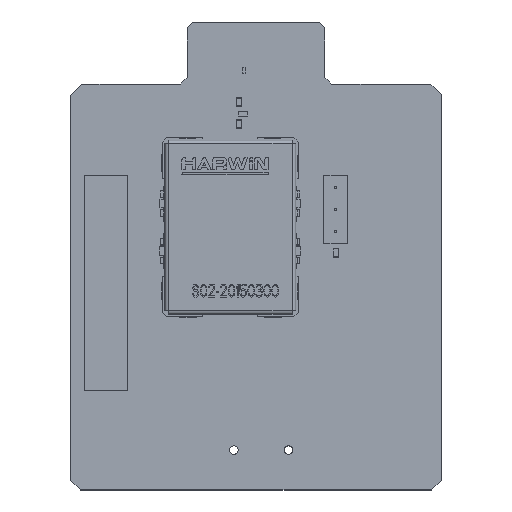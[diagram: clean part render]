
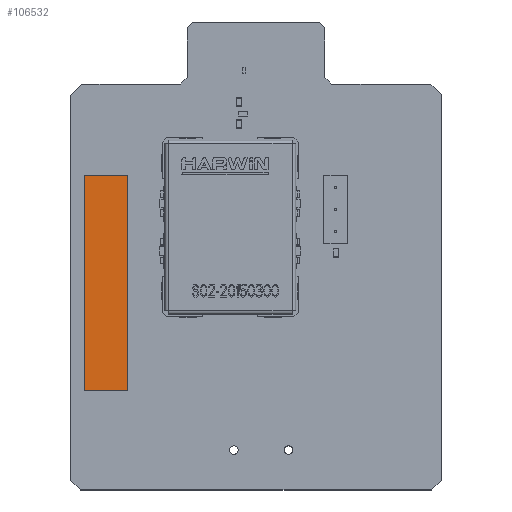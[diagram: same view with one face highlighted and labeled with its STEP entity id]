
A CAD part, top view. The second image highlights one B-rep face of the part: STEP entity #106532.
In plain terms, the highlighted planar face has unit normal (0, 0, 1).
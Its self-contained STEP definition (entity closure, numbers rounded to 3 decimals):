
#106403 = VERTEX_POINT('',#106404);
#106404 = CARTESIAN_POINT('',(-2.5,-12.5,0.01));
#106410 = EDGE_CURVE('',#106403,#106411,#106413,.T.);
#106411 = VERTEX_POINT('',#106412);
#106412 = CARTESIAN_POINT('',(2.5,-12.5,0.01));
#106413 = LINE('',#106414,#106415);
#106414 = CARTESIAN_POINT('',(-2.5,-12.5,0.01));
#106415 = VECTOR('',#106416,1.);
#106416 = DIRECTION('',(1.,0.,0.));
#106441 = EDGE_CURVE('',#106411,#106442,#106444,.T.);
#106442 = VERTEX_POINT('',#106443);
#106443 = CARTESIAN_POINT('',(2.5,12.5,0.01));
#106444 = LINE('',#106445,#106446);
#106445 = CARTESIAN_POINT('',(2.5,-12.5,0.01));
#106446 = VECTOR('',#106447,1.);
#106447 = DIRECTION('',(0.,1.,0.));
#106472 = EDGE_CURVE('',#106442,#106473,#106475,.T.);
#106473 = VERTEX_POINT('',#106474);
#106474 = CARTESIAN_POINT('',(-2.5,12.5,0.01));
#106475 = LINE('',#106476,#106477);
#106476 = CARTESIAN_POINT('',(2.5,12.5,0.01));
#106477 = VECTOR('',#106478,1.);
#106478 = DIRECTION('',(-1.,0.,0.));
#106503 = EDGE_CURVE('',#106473,#106403,#106504,.T.);
#106504 = LINE('',#106505,#106506);
#106505 = CARTESIAN_POINT('',(-2.5,12.5,0.01));
#106506 = VECTOR('',#106507,1.);
#106507 = DIRECTION('',(0.,-1.,0.));
#106532 = ADVANCED_FACE('',(#106533),#106539,.T.);
#106533 = FACE_BOUND('',#106534,.T.);
#106534 = EDGE_LOOP('',(#106535,#106536,#106537,#106538));
#106535 = ORIENTED_EDGE('',*,*,#106410,.T.);
#106536 = ORIENTED_EDGE('',*,*,#106441,.T.);
#106537 = ORIENTED_EDGE('',*,*,#106472,.T.);
#106538 = ORIENTED_EDGE('',*,*,#106503,.T.);
#106539 = PLANE('',#106540);
#106540 = AXIS2_PLACEMENT_3D('',#106541,#106542,#106543);
#106541 = CARTESIAN_POINT('',(0.,0.,
    0.01));
#106542 = DIRECTION('',(0.,0.,1.));
#106543 = DIRECTION('',(1.,0.,-0.));
